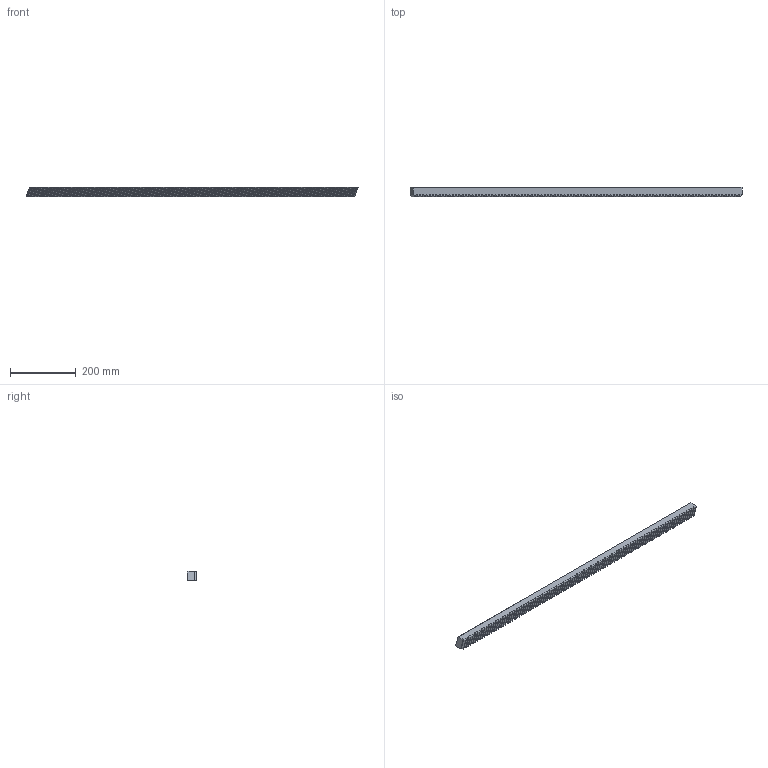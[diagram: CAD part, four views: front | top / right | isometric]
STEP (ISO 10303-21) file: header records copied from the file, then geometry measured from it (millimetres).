
FILE_DESCRIPTION(/* description */ (''),/* implementation_level */ '2;1');
FILE_NAME(/* name */ 'BL-1HR26R030100.ipt',/* time_stamp */ '2019-06-18T08:36:41+02:00',/* author */ ('VĂ©gh MĂˇtĂ©'),/* organization */ ('Bearing Kft'),/* preprocessor_version */ 'ST-DEVELOPER v16.7',/* originating_system */ 'DEX',/* authorisation */ $);
FILE_SCHEMA (('AUTOMOTIVE_DESIGN {1 0 10303 214 3 1 1}'));
Length unit declared in the file: millimetre
Products named in the file (1): BL-1HR26R030100.ipt
Bounding box: 1010.29 x 29 x 29 mm (x, y, z)
Volume: 746286.6 mm3; surface area: 138845.4 mm2
Topology: 1 solids, 1 shells, 933 faces, 2625 edges, 1750 vertices
Faces by surface type: plane 650, bspline 281, cylinder 2
Entity records: 35697 total; most frequent: CARTESIAN_POINT 12320, ORIENTED_EDGE 5230, DIRECTION 4163, EDGE_CURVE 2615, LINE 2049, VECTOR 2049, VERTEX_POINT 1750, AXIS2_PLACEMENT_3D 1057
